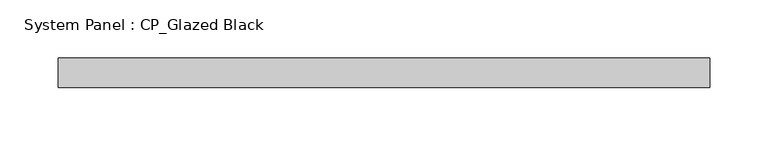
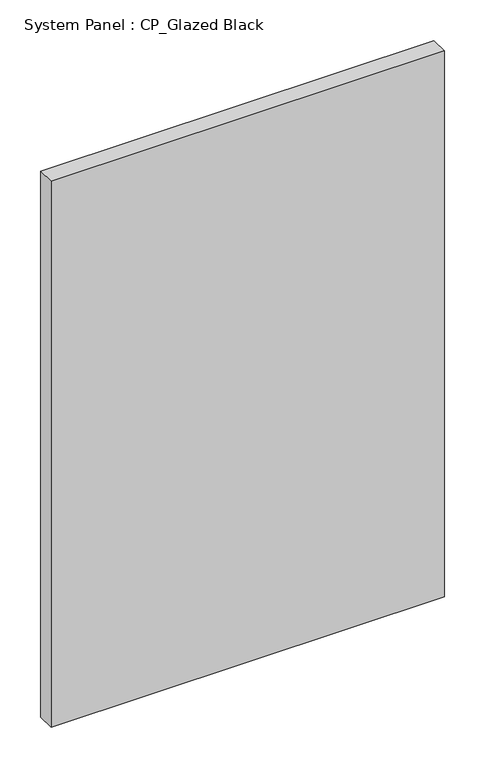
"""IFC4 building model written with IfcOpenShell, lengths in millimetres: plate geometry, System Panel : CP_Glazed Black."""

from ifc_helpers import new_model, si_unit, origin, origin_with_axes, place, context, project, spatial, polyline, outline, extrude, source, transform, mapped, element, save


def system_panel_cp_glazed_black_a15de9b7(model_context):
    return source(origin(), model_context, "Body", "SweptSolid", [
        extrude(outline(polyline([(279.4, 19.05), (-279.4, 19.05), (-279.4, 44.45), (279.4, 44.45), (279.4, 19.05)])), origin_with_axes(), (0.0, 0.0, 1.0), 819.15),
    ])


if __name__ == "__main__":
    model = new_model("IFC4")
    model_context = context("Model", 3, world=origin())
    ifc_project = project(units=[si_unit("LENGTHUNIT", "METRE", prefix="MILLI")], contexts=[model_context])
    site = spatial("IfcSite", under=ifc_project)
    building = spatial("IfcBuilding", under=site)
    placement = place(None, origin())
    system_panel_cp_glazed_black_shape = system_panel_cp_glazed_black_a15de9b7(model_context)
    element("IfcPlate", 1, ObjectType="System Panel : CP_Glazed Black", at=placement, inside=building, context=model_context, shape_type="MappedRepresentation", body=[
        mapped(system_panel_cp_glazed_black_shape, transform((0.0, 0.0, 0.0), x_axis=(1.0, 0.0, 0.0), y_axis=(0.0, 1.0, 0.0), z_axis=(0.0, 0.0, 1.0))),
    ])
    save(model, "model.ifc")
